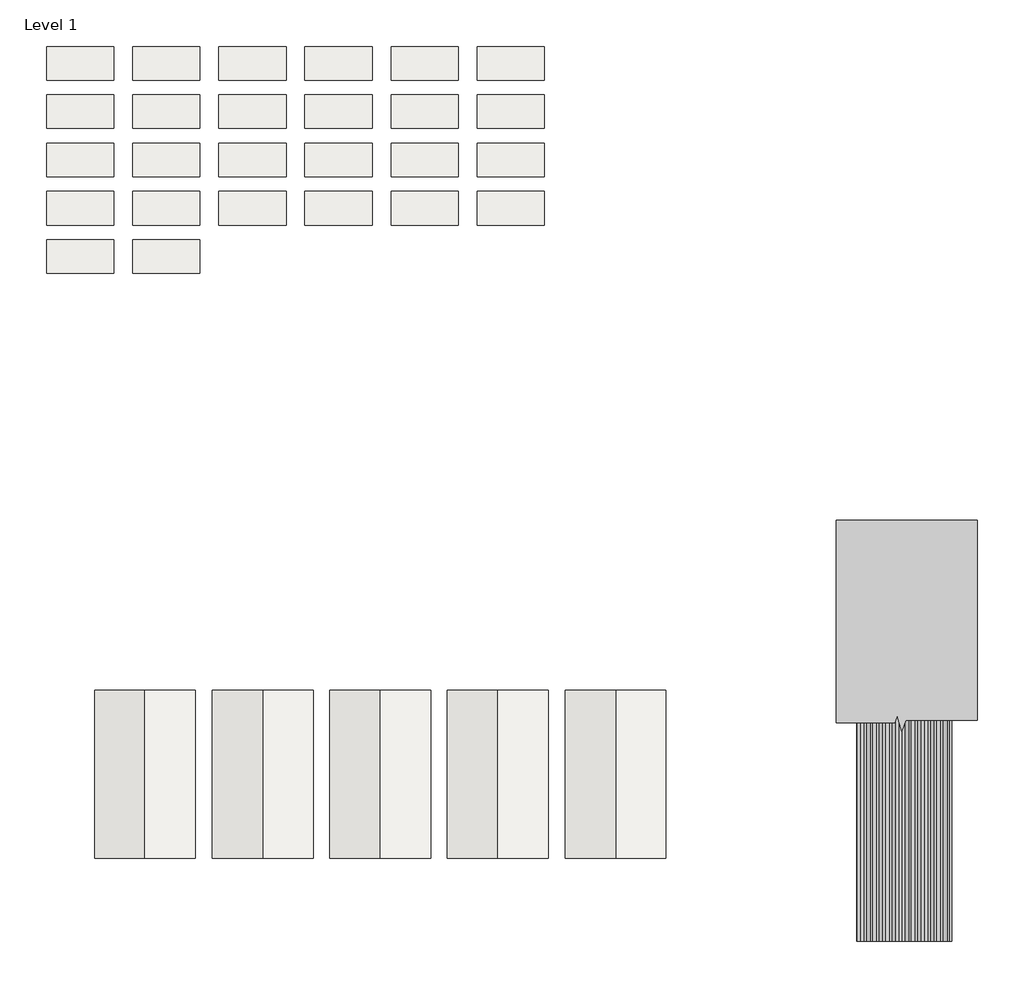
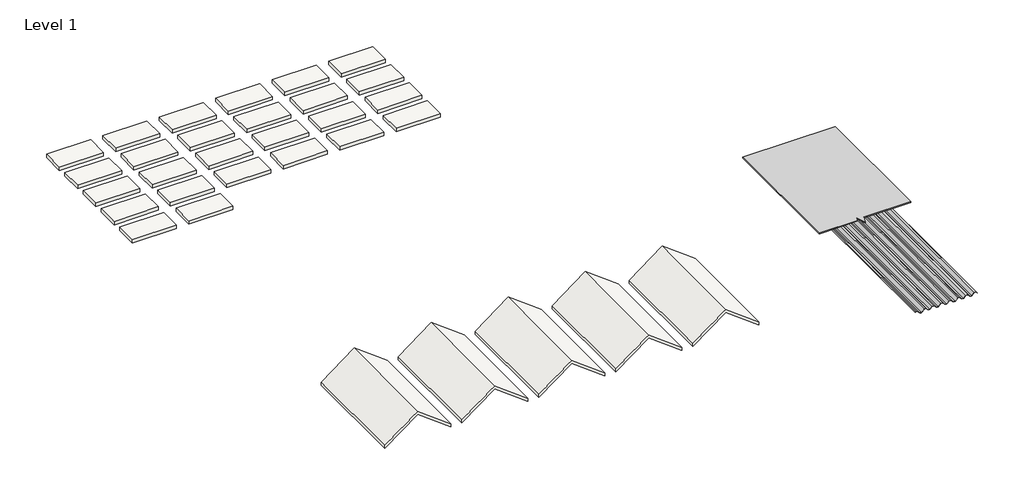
# One storey: 26 slabs, 5 roofs, 2 proxies.
"""IFC4 building model written with IfcOpenShell, lengths in millimetres."""

from ifc_helpers import new_model, si_unit, frame, origin, place, context, project, spatial, polyline, outline, extrude, transform, mapped, element, save
from components import proxy_a3d225fe, section_mask3_section_mask_8df45557

model = new_model("IFC4")

# Units and contexts
model_context = context("Model", 3, world=origin())
ifc_project = project(units=[si_unit("LENGTHUNIT", "METRE", prefix="MILLI")], contexts=[model_context])

# Site, building, storey
site = spatial("IfcSite", under=ifc_project)
building = spatial("IfcBuilding", under=site)
storey = spatial("IfcBuildingStorey", under=building, Name="Level 1", Elevation=0.0)

# Proxies
placement = place(None, origin())
proxy_shape = proxy_a3d225fe(model_context)
element("IfcBuildingElementProxy", 1, Name="Mini-V_Beam_Panel_AEP_Span : 32\" Mini-V-Beam - 18ga", ObjectType="Mini-V_Beam_Panel_AEP_Span : 32\" Mini-V-Beam - 18ga", at=placement, inside=storey, context=model_context, shape_type="MappedRepresentation", body=[
    mapped(proxy_shape, transform((2825.2890503, 2690.4189469, 0.0), x_axis=(1.0, 0.0, 0.0), y_axis=(0.0, 1.0, 0.0), z_axis=(0.0, 0.0, 1.0))),
])
section_mask3_section_mask_shape = section_mask3_section_mask_8df45557(model_context)
element("IfcBuildingElementProxy", 2, Name="Section Mask3 : Section Mask", ObjectType="Section Mask3 : Section Mask", at=placement, inside=storey, context=model_context, shape_type="MappedRepresentation", body=[
    mapped(section_mask3_section_mask_shape, transform((-5380.9624033, 739.4562563, 0.0), x_axis=(1.0, 0.0, 0.0), y_axis=(0.0, 1.0, 0.0), z_axis=(0.0, 0.0, 1.0))),
])

# Roofs
element("IfcRoof", 3, ObjectType="32\" Mini-V-Beam Roofing - 18ga", at=placement, inside=storey, context=model_context, shape_type="SweptSolid", body=[
    extrude(outline(polyline([(43.65625, -3596.8750229), (386.55625, -4054.0750229), (43.65625, -4511.2750229), (0.0, -4511.2750229), (342.9, -4054.0750229), (0.0, -3596.8750229), (43.65625, -3596.8750229)])), frame((0.0, 140.5584683, 0.0), z_axis=(0.0, 1.0, 0.0), x_axis=(0.0, 0.0, 1.0)), (0.0, 0.0, 1.0), 1524.0),
])
element("IfcRoof", 4, ObjectType="32\" Mini-V-Beam Roofing - 20ga", at=placement, inside=storey, context=model_context, shape_type="SweptSolid", body=[
    extrude(outline(polyline([(43.65625, -2530.0750229), (386.55625, -2987.2750229), (43.65625, -3444.4750229), (0.0, -3444.4750229), (342.9, -2987.2750229), (0.0, -2530.0750229), (43.65625, -2530.0750229)])), frame((0.0, 140.5584683, 0.0), z_axis=(0.0, 1.0, 0.0), x_axis=(0.0, 0.0, 1.0)), (0.0, 0.0, 1.0), 1524.0),
])
element("IfcRoof", 5, ObjectType="32\" Mini-V-Beam Roofing - 22ga", at=placement, inside=storey, context=model_context, shape_type="SweptSolid", body=[
    extrude(outline(polyline([(43.65625, -1463.2750229), (386.55625, -1920.4750229), (43.65625, -2377.6750229), (0.0, -2377.6750229), (342.9, -1920.4750229), (0.0, -1463.2750229), (43.65625, -1463.2750229)])), frame((0.0, 140.5584683, 0.0), z_axis=(0.0, 1.0, 0.0), x_axis=(0.0, 0.0, 1.0)), (0.0, 0.0, 1.0), 1524.0),
])
element("IfcRoof", 6, ObjectType="32\" Mini-V-Beam Roofing - 24ga", at=placement, inside=storey, context=model_context, shape_type="SweptSolid", body=[
    extrude(outline(polyline([(43.65625, -396.4750229), (386.55625, -853.6750229), (43.65625, -1310.8750229), (0.0, -1310.8750229), (342.9, -853.6750229), (0.0, -396.4750229), (43.65625, -396.4750229)])), frame((0.0, 140.5584683, 0.0), z_axis=(0.0, 1.0, 0.0), x_axis=(0.0, 0.0, 1.0)), (0.0, 0.0, 1.0), 1524.0),
])
element("IfcRoof", 7, ObjectType="32\" Mini-V-Beam Roofing - 26ga", at=placement, inside=storey, context=model_context, shape_type="SweptSolid", body=[
    extrude(outline(polyline([(43.65625, 670.3249771), (386.55625, 213.1249771), (43.65625, -244.0750229), (0.0, -244.0750229), (342.9, 213.1249771), (0.0, 670.3249771), (43.65625, 670.3249771)])), frame((0.0, 140.5584683, 0.0), z_axis=(0.0, 1.0, 0.0), x_axis=(0.0, 0.0, 1.0)), (0.0, 0.0, 1.0), 1524.0),
])

# Slabs
element("IfcSlab", 8, ObjectType="AEP Span Color Sample", at=placement, inside=storey, context=model_context, shape_type="SweptSolid", body=[
    extrude(outline(polyline([(-4336.915334, 7196.0746889), (-4946.515334, 7196.0746889), (-4946.515334, 7500.8746889), (-4336.915334, 7500.8746889), (-4336.915334, 7196.0746889)])), frame((0.0, 0.0, -50.8), z_axis=(0.0, 0.0, 1.0), x_axis=(1.0, 0.0, 0.0)), (0.0, 0.0, 1.0), 50.8),
])
element("IfcSlab", 9, ObjectType="AEP Span Color Sample", at=placement, inside=storey, context=model_context, shape_type="SweptSolid", body=[
    extrude(outline(polyline([(-3555.865334, 7196.0746889), (-4165.465334, 7196.0746889), (-4165.465334, 7500.8746889), (-3555.865334, 7500.8746889), (-3555.865334, 7196.0746889)])), frame((0.0, 0.0, -50.8), z_axis=(0.0, 0.0, 1.0), x_axis=(1.0, 0.0, 0.0)), (0.0, 0.0, 1.0), 50.8),
])
element("IfcSlab", 10, ObjectType="AEP Span Color Sample", at=placement, inside=storey, context=model_context, shape_type="SweptSolid", body=[
    extrude(outline(polyline([(-2774.815334, 7196.0746889), (-3384.415334, 7196.0746889), (-3384.415334, 7500.8746889), (-2774.815334, 7500.8746889), (-2774.815334, 7196.0746889)])), frame((0.0, 0.0, -50.8), z_axis=(0.0, 0.0, 1.0), x_axis=(1.0, 0.0, 0.0)), (0.0, 0.0, 1.0), 50.8),
])
element("IfcSlab", 11, ObjectType="AEP Span Color Sample", at=placement, inside=storey, context=model_context, shape_type="SweptSolid", body=[
    extrude(outline(polyline([(-1993.765334, 7196.0746889), (-2603.365334, 7196.0746889), (-2603.365334, 7500.8746889), (-1993.765334, 7500.8746889), (-1993.765334, 7196.0746889)])), frame((0.0, 0.0, -50.8), z_axis=(0.0, 0.0, 1.0), x_axis=(1.0, 0.0, 0.0)), (0.0, 0.0, 1.0), 50.8),
])
element("IfcSlab", 12, ObjectType="AEP Span Color Sample", at=placement, inside=storey, context=model_context, shape_type="SweptSolid", body=[
    extrude(outline(polyline([(-1212.715334, 7196.0746889), (-1822.315334, 7196.0746889), (-1822.315334, 7500.8746889), (-1212.715334, 7500.8746889), (-1212.715334, 7196.0746889)])), frame((0.0, 0.0, -50.8), z_axis=(0.0, 0.0, 1.0), x_axis=(1.0, 0.0, 0.0)), (0.0, 0.0, 1.0), 50.8),
])
element("IfcSlab", 13, ObjectType="AEP Span Color Sample", at=placement, inside=storey, context=model_context, shape_type="SweptSolid", body=[
    extrude(outline(polyline([(-431.665334, 7196.0746889), (-1041.265334, 7196.0746889), (-1041.265334, 7500.8746889), (-431.665334, 7500.8746889), (-431.665334, 7196.0746889)])), frame((0.0, 0.0, -50.8), z_axis=(0.0, 0.0, 1.0), x_axis=(1.0, 0.0, 0.0)), (0.0, 0.0, 1.0), 50.8),
])
element("IfcSlab", 14, ObjectType="AEP Span Color Sample", at=placement, inside=storey, context=model_context, shape_type="SweptSolid", body=[
    extrude(outline(polyline([(-4336.915334, 6757.9246889), (-4946.515334, 6757.9246889), (-4946.515334, 7062.7246889), (-4336.915334, 7062.7246889), (-4336.915334, 6757.9246889)])), frame((0.0, 0.0, -50.8), z_axis=(0.0, 0.0, 1.0), x_axis=(1.0, 0.0, 0.0)), (0.0, 0.0, 1.0), 50.8),
])
element("IfcSlab", 15, ObjectType="AEP Span Color Sample", at=placement, inside=storey, context=model_context, shape_type="SweptSolid", body=[
    extrude(outline(polyline([(-3555.865334, 6757.9246889), (-4165.465334, 6757.9246889), (-4165.465334, 7062.7246889), (-3555.865334, 7062.7246889), (-3555.865334, 6757.9246889)])), frame((0.0, 0.0, -50.8), z_axis=(0.0, 0.0, 1.0), x_axis=(1.0, 0.0, 0.0)), (0.0, 0.0, 1.0), 50.8),
])
element("IfcSlab", 16, ObjectType="AEP Span Color Sample", at=placement, inside=storey, context=model_context, shape_type="SweptSolid", body=[
    extrude(outline(polyline([(-2774.815334, 6757.9246889), (-3384.415334, 6757.9246889), (-3384.415334, 7062.7246889), (-2774.815334, 7062.7246889), (-2774.815334, 6757.9246889)])), frame((0.0, 0.0, -50.8), z_axis=(0.0, 0.0, 1.0), x_axis=(1.0, 0.0, 0.0)), (0.0, 0.0, 1.0), 50.8),
])
element("IfcSlab", 17, ObjectType="AEP Span Color Sample", at=placement, inside=storey, context=model_context, shape_type="SweptSolid", body=[
    extrude(outline(polyline([(-1993.765334, 6757.9246889), (-2603.365334, 6757.9246889), (-2603.365334, 7062.7246889), (-1993.765334, 7062.7246889), (-1993.765334, 6757.9246889)])), frame((0.0, 0.0, -50.8), z_axis=(0.0, 0.0, 1.0), x_axis=(1.0, 0.0, 0.0)), (0.0, 0.0, 1.0), 50.8),
])
element("IfcSlab", 18, ObjectType="AEP Span Color Sample", at=placement, inside=storey, context=model_context, shape_type="SweptSolid", body=[
    extrude(outline(polyline([(-1212.715334, 6757.9246889), (-1822.315334, 6757.9246889), (-1822.315334, 7062.7246889), (-1212.715334, 7062.7246889), (-1212.715334, 6757.9246889)])), frame((0.0, 0.0, -50.8), z_axis=(0.0, 0.0, 1.0), x_axis=(1.0, 0.0, 0.0)), (0.0, 0.0, 1.0), 50.8),
])
element("IfcSlab", 19, ObjectType="AEP Span Color Sample", at=placement, inside=storey, context=model_context, shape_type="SweptSolid", body=[
    extrude(outline(polyline([(-431.665334, 6757.9246889), (-1041.265334, 6757.9246889), (-1041.265334, 7062.7246889), (-431.665334, 7062.7246889), (-431.665334, 6757.9246889)])), frame((0.0, 0.0, -50.8), z_axis=(0.0, 0.0, 1.0), x_axis=(1.0, 0.0, 0.0)), (0.0, 0.0, 1.0), 50.8),
])
element("IfcSlab", 20, ObjectType="AEP Span Color Sample", at=placement, inside=storey, context=model_context, shape_type="SweptSolid", body=[
    extrude(outline(polyline([(-4336.915334, 6319.7746889), (-4946.515334, 6319.7746889), (-4946.515334, 6624.5746889), (-4336.915334, 6624.5746889), (-4336.915334, 6319.7746889)])), frame((0.0, 0.0, -50.8), z_axis=(0.0, 0.0, 1.0), x_axis=(1.0, 0.0, 0.0)), (0.0, 0.0, 1.0), 50.8),
])
element("IfcSlab", 21, ObjectType="AEP Span Color Sample", at=placement, inside=storey, context=model_context, shape_type="SweptSolid", body=[
    extrude(outline(polyline([(-3555.865334, 6319.7746889), (-4165.465334, 6319.7746889), (-4165.465334, 6624.5746889), (-3555.865334, 6624.5746889), (-3555.865334, 6319.7746889)])), frame((0.0, 0.0, -50.8), z_axis=(0.0, 0.0, 1.0), x_axis=(1.0, 0.0, 0.0)), (0.0, 0.0, 1.0), 50.8),
])
element("IfcSlab", 22, ObjectType="AEP Span Color Sample", at=placement, inside=storey, context=model_context, shape_type="SweptSolid", body=[
    extrude(outline(polyline([(-2774.815334, 6319.7746889), (-3384.415334, 6319.7746889), (-3384.415334, 6624.5746889), (-2774.815334, 6624.5746889), (-2774.815334, 6319.7746889)])), frame((0.0, 0.0, -50.8), z_axis=(0.0, 0.0, 1.0), x_axis=(1.0, 0.0, 0.0)), (0.0, 0.0, 1.0), 50.8),
])
element("IfcSlab", 23, ObjectType="AEP Span Color Sample", at=placement, inside=storey, context=model_context, shape_type="SweptSolid", body=[
    extrude(outline(polyline([(-1993.765334, 6319.7746889), (-2603.365334, 6319.7746889), (-2603.365334, 6624.5746889), (-1993.765334, 6624.5746889), (-1993.765334, 6319.7746889)])), frame((0.0, 0.0, -50.8), z_axis=(0.0, 0.0, 1.0), x_axis=(1.0, 0.0, 0.0)), (0.0, 0.0, 1.0), 50.8),
])
element("IfcSlab", 24, ObjectType="AEP Span Color Sample", at=placement, inside=storey, context=model_context, shape_type="SweptSolid", body=[
    extrude(outline(polyline([(-1212.715334, 6319.7746889), (-1822.315334, 6319.7746889), (-1822.315334, 6624.5746889), (-1212.715334, 6624.5746889), (-1212.715334, 6319.7746889)])), frame((0.0, 0.0, -50.8), z_axis=(0.0, 0.0, 1.0), x_axis=(1.0, 0.0, 0.0)), (0.0, 0.0, 1.0), 50.8),
])
element("IfcSlab", 25, ObjectType="AEP Span Color Sample", at=placement, inside=storey, context=model_context, shape_type="SweptSolid", body=[
    extrude(outline(polyline([(-431.665334, 6319.7746889), (-1041.265334, 6319.7746889), (-1041.265334, 6624.5746889), (-431.665334, 6624.5746889), (-431.665334, 6319.7746889)])), frame((0.0, 0.0, -50.8), z_axis=(0.0, 0.0, 1.0), x_axis=(1.0, 0.0, 0.0)), (0.0, 0.0, 1.0), 50.8),
])
element("IfcSlab", 26, ObjectType="AEP Span Color Sample", at=placement, inside=storey, context=model_context, shape_type="SweptSolid", body=[
    extrude(outline(polyline([(-4336.915334, 5881.6246889), (-4946.515334, 5881.6246889), (-4946.515334, 6186.4246889), (-4336.915334, 6186.4246889), (-4336.915334, 5881.6246889)])), frame((0.0, 0.0, -50.8), z_axis=(0.0, 0.0, 1.0), x_axis=(1.0, 0.0, 0.0)), (0.0, 0.0, 1.0), 50.8),
])
element("IfcSlab", 27, ObjectType="AEP Span Color Sample", at=placement, inside=storey, context=model_context, shape_type="SweptSolid", body=[
    extrude(outline(polyline([(-3555.865334, 5881.6246889), (-4165.465334, 5881.6246889), (-4165.465334, 6186.4246889), (-3555.865334, 6186.4246889), (-3555.865334, 5881.6246889)])), frame((0.0, 0.0, -50.8), z_axis=(0.0, 0.0, 1.0), x_axis=(1.0, 0.0, 0.0)), (0.0, 0.0, 1.0), 50.8),
])
element("IfcSlab", 28, ObjectType="AEP Span Color Sample", at=placement, inside=storey, context=model_context, shape_type="SweptSolid", body=[
    extrude(outline(polyline([(-2774.815334, 5881.6246889), (-3384.415334, 5881.6246889), (-3384.415334, 6186.4246889), (-2774.815334, 6186.4246889), (-2774.815334, 5881.6246889)])), frame((0.0, 0.0, -50.8), z_axis=(0.0, 0.0, 1.0), x_axis=(1.0, 0.0, 0.0)), (0.0, 0.0, 1.0), 50.8),
])
element("IfcSlab", 29, ObjectType="AEP Span Color Sample", at=placement, inside=storey, context=model_context, shape_type="SweptSolid", body=[
    extrude(outline(polyline([(-1993.765334, 5881.6246889), (-2603.365334, 5881.6246889), (-2603.365334, 6186.4246889), (-1993.765334, 6186.4246889), (-1993.765334, 5881.6246889)])), frame((0.0, 0.0, -50.8), z_axis=(0.0, 0.0, 1.0), x_axis=(1.0, 0.0, 0.0)), (0.0, 0.0, 1.0), 50.8),
])
element("IfcSlab", 30, ObjectType="AEP Span Color Sample", at=placement, inside=storey, context=model_context, shape_type="SweptSolid", body=[
    extrude(outline(polyline([(-1212.715334, 5881.6246889), (-1822.315334, 5881.6246889), (-1822.315334, 6186.4246889), (-1212.715334, 6186.4246889), (-1212.715334, 5881.6246889)])), frame((0.0, 0.0, -50.8), z_axis=(0.0, 0.0, 1.0), x_axis=(1.0, 0.0, 0.0)), (0.0, 0.0, 1.0), 50.8),
])
element("IfcSlab", 31, ObjectType="AEP Span Color Sample", at=placement, inside=storey, context=model_context, shape_type="SweptSolid", body=[
    extrude(outline(polyline([(-431.665334, 5881.6246889), (-1041.265334, 5881.6246889), (-1041.265334, 6186.4246889), (-431.665334, 6186.4246889), (-431.665334, 5881.6246889)])), frame((0.0, 0.0, -50.8), z_axis=(0.0, 0.0, 1.0), x_axis=(1.0, 0.0, 0.0)), (0.0, 0.0, 1.0), 50.8),
])
element("IfcSlab", 32, ObjectType="AEP Span Color Sample", at=placement, inside=storey, context=model_context, shape_type="SweptSolid", body=[
    extrude(outline(polyline([(-4336.915334, 5443.4746889), (-4946.515334, 5443.4746889), (-4946.515334, 5748.2746889), (-4336.915334, 5748.2746889), (-4336.915334, 5443.4746889)])), frame((0.0, 0.0, -50.8), z_axis=(0.0, 0.0, 1.0), x_axis=(1.0, 0.0, 0.0)), (0.0, 0.0, 1.0), 50.8),
])
element("IfcSlab", 33, ObjectType="AEP Span Color Sample", at=placement, inside=storey, context=model_context, shape_type="SweptSolid", body=[
    extrude(outline(polyline([(-3555.865334, 5443.4746889), (-4165.465334, 5443.4746889), (-4165.465334, 5748.2746889), (-3555.865334, 5748.2746889), (-3555.865334, 5443.4746889)])), frame((0.0, 0.0, -50.8), z_axis=(0.0, 0.0, 1.0), x_axis=(1.0, 0.0, 0.0)), (0.0, 0.0, 1.0), 50.8),
])

save(model, "model.ifc")
